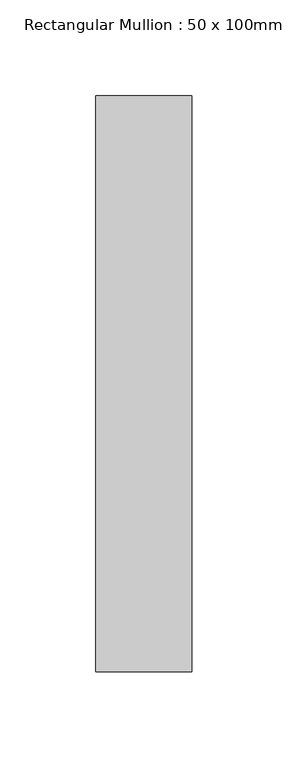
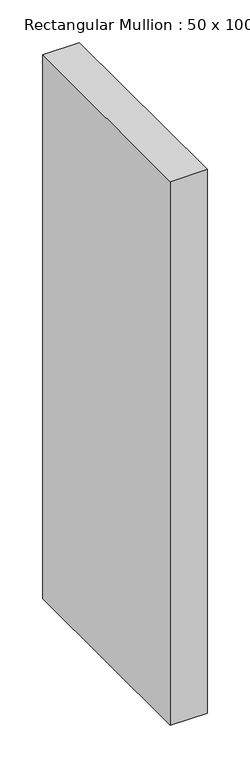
"""IFC4 building model written with IfcOpenShell, lengths in millimetres: member geometry, Rectangular Mullion : 50 x 100mm."""

from ifc_helpers import new_model, si_unit, frame, origin, place, context, project, spatial, polyline, outline, extrude, source, transform, mapped, element, save


def rectangular_mullion_50_x_100mm_6f98f456(model_context):
    return source(origin(), model_context, "Body", "SweptSolid", [
        extrude(outline(polyline([(0.0, 175.0), (0.0, -125.0), (-50.0, -125.0), (-50.0, 175.0), (0.0, 175.0)])), frame((0.0, 0.0, -780.0), z_axis=(0.0, 0.0, 1.0), x_axis=(1.0, 0.0, 0.0)), (0.0, 0.0, 1.0), 780.0),
    ])


if __name__ == "__main__":
    model = new_model("IFC4")
    model_context = context("Model", 3, world=origin())
    ifc_project = project(units=[si_unit("LENGTHUNIT", "METRE", prefix="MILLI")], contexts=[model_context])
    site = spatial("IfcSite", under=ifc_project)
    building = spatial("IfcBuilding", under=site)
    placement = place(None, origin())
    rectangular_mullion_50_x_100mm_shape = rectangular_mullion_50_x_100mm_6f98f456(model_context)
    element("IfcMember", 1, ObjectType="Rectangular Mullion : 50 x 100mm", at=placement, inside=building, context=model_context, shape_type="MappedRepresentation", body=[
        mapped(rectangular_mullion_50_x_100mm_shape, transform((0.0, 0.0, 0.0), x_axis=(1.0, 0.0, 0.0), y_axis=(0.0, 1.0, 0.0), z_axis=(0.0, 0.0, 1.0))),
    ])
    save(model, "model.ifc")
